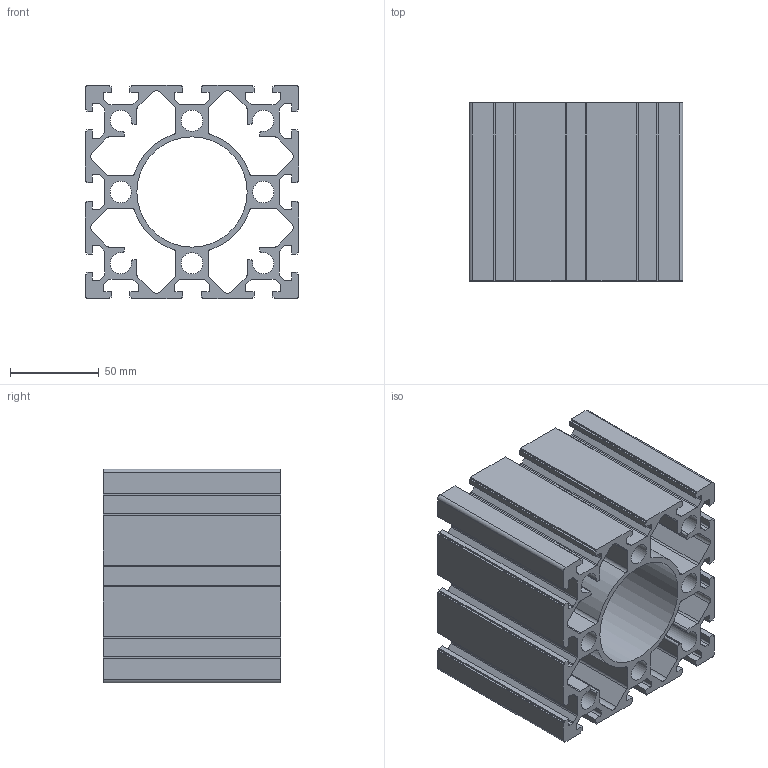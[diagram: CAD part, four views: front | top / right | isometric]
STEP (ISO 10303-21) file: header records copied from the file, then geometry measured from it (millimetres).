
FILE_DESCRIPTION(/* description */ ('Unknown'),/* implementation_level */ '2;1');
FILE_NAME(/* name */ 'AST12012012',/* time_stamp */ '2018-10-16T17:30:29+01:00',/* author */ ('Unknown'),/* organization */ ('Unknown'),/* preprocessor_version */ 'ST-DEVELOPER v16.7',/* originating_system */ 'DEX',/* authorisation */ $);
FILE_SCHEMA (('AUTOMOTIVE_DESIGN {1 0 10303 214 3 1 1}'));
Length unit declared in the file: millimetre
Products named in the file (1): AST12012012
Bounding box: 120 x 100 x 120 mm (x, y, z)
Volume: 405978.2 mm3; surface area: 205178.1 mm2
Topology: 1 solids, 1 shells, 351 faces, 1047 edges, 698 vertices
Faces by surface type: plane 214, cylinder 137
Full cylindrical faces by diameter (mm): 12 x4, 62 x1
Entity records: 11856 total; most frequent: CARTESIAN_POINT 2092, ORIENTED_EDGE 2084, DIRECTION 2020, EDGE_CURVE 1042, LINE 768, VECTOR 768, VERTEX_POINT 698, AXIS2_PLACEMENT_3D 626
